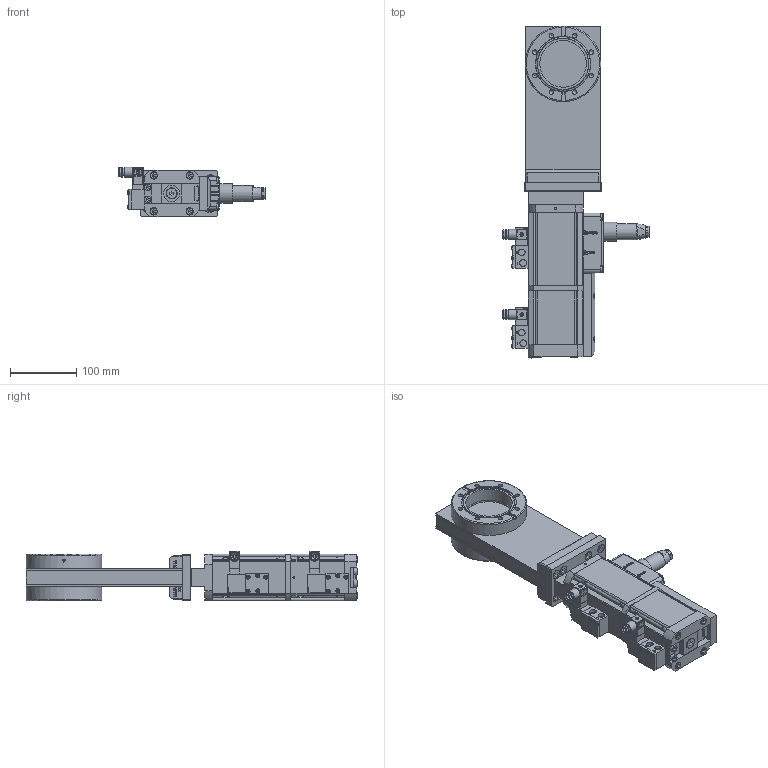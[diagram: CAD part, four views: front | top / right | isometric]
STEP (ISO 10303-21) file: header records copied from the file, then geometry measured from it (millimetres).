
FILE_DESCRIPTION(/* description */ (''),/* implementation_level */ '2;1');
FILE_NAME(/* name */ '1028557000_203.stp',/* time_stamp */ '2016-01-11T06:58:51+01:00',/* author */ (''),/* organization */ (''),/* preprocessor_version */ 'ST-DEVELOPER v15',/* originating_system */ 'SIEMENS PLM Software NX 9.0',/* authorisation */ '');
FILE_SCHEMA (('AP203_CONFIGURATION_CONTROLLED_3D_DESIGN_OF_MECHANICAL_PARTS_AND_ASSEMBLIES_MIM_LF { 1 0 10303 403 2 1 2}'));
Products named in the file (54): 467882; 437235; 441451_24144ID; 21436-01.1_24157ID; 21437-01.1_24156ID; 21438-01.1; 441451_24153ID; 21437-01.1_24152ID; 21436-01.1_24146ID; N-7557-016_1.1; N-7557-018.1; N-7557-016_2.1; N-6024-524.1; N-5018-005.1; N-6013-447.1; N-6005-437.1; N-6005-477.1; N-6005-473.1; 72845-01.1; 72846-01.1; 73706-01.1; 79606-01.2; 72840-01.1; 522502; 94311-01.1; 70738-01.1; 73690-01.1; 522500; 73701-01.1; 70973-01.1; 70988-01.1; n-8504-002; n-6024-548.1; 70987-01.1; N-6024-571.1; 94221-01.1; 73002-01.1; 69127.1; 72872-01.1; 21450-01.1_24148ID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
Assembly tree (89 placements, depth 4):
  522578
    22973.2_MODEL
      n-6099-454.1  x2
      21450-01.1
      21450-01.1_24148ID
      22974-r1.2_MODEL
        21436-01.1_24146ID
        21437-01.1_24152ID
        441451_24153ID
        21438-01.1
        21437-01.1_24156ID
        21436-01.1_24157ID
        441451_24144ID
    790428
    82467-r1.1
      72872-01.1
      69127.1
    218198.1  x8
    63215-01.1
    94234-r1.2
      73002-01.1  x4
      94221-01.1
      N-6024-571.1  x4
    790526
      70987-01.1
      n-6024-548.1  x4
      n-8504-002
      70988-01.1  x2
      70973-01.1
    522503
      73701-01.1  x4
      522500
      73690-01.1
      70738-01.1
      94311-01.1
      522502
      72840-01.1
      79606-01.2
      73706-01.1
      72846-01.1
      72845-01.1
      N-6005-473.1  x2
      N-6005-477.1  x4
      N-6005-437.1  x4
      N-6013-447.1  x2
    94800-r1.7_NX-ARRAGMNTKONFIG1  x2
      N-5018-005.1
      N-6024-524.1
      N-7557-016_2.1
      N-7557-018.1
      N-7557-016_1.1
      N-7557-016_3.1_MODELNX-ARRAGMNTArrangement 1
        437235
        467882
Bounding box: 219.9 x 499.43 x 74.49 mm (x, y, z)
Volume: 1723199.4 mm3; surface area: 617497 mm2
Topology: 191 solids, 191 shells, 3837 faces, 9513 edges, 6370 vertices
Faces by surface type: plane 2722, cylinder 714, cone 170, torus 119, extrusion 66, sphere 34, bspline 12
Full cylindrical faces by diameter (mm): 0.7 x1, 1 x1, 1.66 x7, 2 x30, 2.125 x1, 2.5 x18, 2.65 x1, 2.8 x2, 3 x22, 3.2 x4, 3.26 x4, 3.3 x14, 3.4 x8, 3.5 x6, 4 x28, 4.2 x4, 4.22 x2, 4.3 x6, 4.35 x2, 4.4 x8, 4.45 x4, 4.625 x4, 4.75 x8, 4.917 x4, 4.96 x6, 5 x16, 5.5 x2, 5.9 x1, 6 x48, 6.4 x4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
Entity records: 96464 total; most frequent: CARTESIAN_POINT 21026, ORIENTED_EDGE 12536, DIRECTION 11895, EDGE_CURVE 6268, VERTEX_POINT 4520, AXIS2_PLACEMENT_3D 4070, VECTOR 3755, LINE 3693
